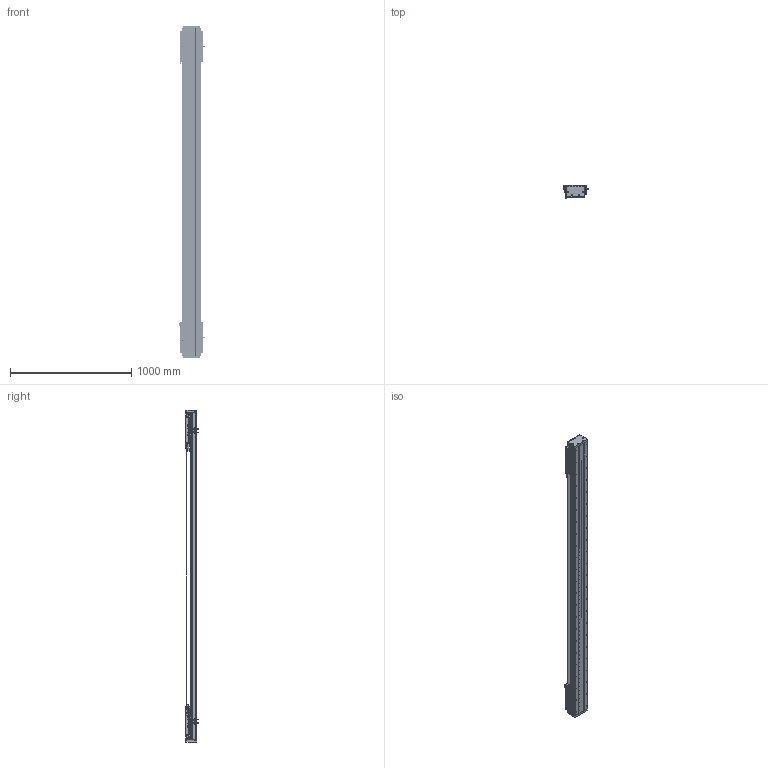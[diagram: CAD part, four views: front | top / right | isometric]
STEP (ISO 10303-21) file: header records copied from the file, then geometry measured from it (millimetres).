
FILE_DESCRIPTION (( 'STEP AP203' ), '1' );
FILE_NAME ('DA-C145-2-C3-T2120-C010-0.2 眻盄萇儂.STEP', '2025-08-13T10:25:52', ( '' ), ( '' ), 'SwSTEP 2.0', 'SolidWorks 2019', '' );
FILE_SCHEMA (( 'CONFIG_CONTROL_DESIGN' ));
Length unit declared in the file: millimetre
Products named in the file (38): 葩璃 DA145-C3-DP-A-00 菜えA^CU145-W 幗紩賑怢; 复件 DA146 钢带垫块^复件 CU145 钢带组件_DA-C145-2-C3-T-C010-0.2; TAY01-M8; 葩璃 XD-U-02L 棠掑喜^DA-C145-2-C3-T-C010-0.2; 复件 DA95-HK-GT-00 滑块钢轨^CU145-W-00 一体化滑动台板; 复件 半圆头内六角螺钉 M3×6^CU145-W 滚珠滑台; CU145-W 幗紩賑怢-1; CU145-W-00 珨极趙賑雄怢啣; 复件 DA95-DB-00  挡板^CU145-W 滚珠滑台; IU-CU145-L-00 菁釱(L2700); 复件 DA95-MFP-01 密封片^CU145-W 滚珠滑台; 葩璃 CU145 詩湍郪璃^DA-C145-2-C3-T-C010-0.2; 葩璃 DA95-GT-T-00^IU-CU145-L 菁釱絳寢; DA-C145-2-C3-T2120-C010-0.2 眻盄萇儂; DKW-GYP-ZJ-00 笢潔嫖萇覜茼え; IU-CU145-L 菁釱絳寢; 葩璃 CKMA01-W060-TRL^DA-C145-2-C3-T-C010-0.2; 葩璃 PM-Y65^DA-C145-2-C3-T-C010-0.2; 葩璃 DMA-010-0.2 黍杅芛^DA-C145-2-C3-T-C010-0.2; 葩璃 PM-T45^DA-C145-2-C3-T-C010-0.2; 复件 DA146 钢带拉块^复件 CU145 钢带组件_DA-C145-2-C3-T-C010-0.2; 复件 纯铜油杯 6x6mm^CU145-W 滚珠滑台; DKW168-HXJ-ZJ-00 笢潔滅袉砎蝶; 66245-CU145-HT-W-00 賑雄怢啣(3D芞祧)(00); 复件 内六角平端紧定螺钉 GB.T77-2000 M5×10^CU145-W 滚珠滑台; 复件 DA145-C3-YB-B-00 压板B^CU145-W 滚珠滑台; CU145-W 幗紩賑怢; 复件 DA145-DG 钢带端盖^复件 CU145 钢带组件_DA-C145-2-C3-T-C010-0.2; 葩璃 鞠褒情蹟譫 M3^DA-C145-2-C3-T-C010-0.2; 复件 DA145 钢带^复件 CU145 钢带组件_DA-C145-2-C3-T-C010-0.2; DKW-KGZ-ZJ-00 中间光电开关支架; 葩璃 CKM03-W060-C1C2-TP-0.2^DA-C145-2-C3-T-C010-0.2; 葩璃 DA145-C3-DP-B-00 菜えB^CU145-W 幗紩賑怢; 复件 DA145-C3-DK-00 挡块^CU145-W 滚珠滑台; 复件 DA145-GYP-00 光电感应片^DA-C145-2-C3-T-C010-0.2; CU145-W-00 珨极趙賑雄怢啣-1; 葩璃 DA95-HXJ-00 遣喳砎蝶^DA-C145-2-C3-T-C010-0.2; 复件 DA145-C3-YB-A-00 压板A^CU145-W 滚珠滑台
Assembly tree (180 placements, depth 4):
  DA-C145-2-C3-T2120-C010-0.2 眻盄萇儂
    IU-CU145-L 菁釱絳寢
      IU-CU145-L-00 菁釱(L2700)
      葩璃 DA95-GT-T-00^IU-CU145-L 菁釱絳寢  x4
    葩璃 CU145 詩湍郪璃^DA-C145-2-C3-T-C010-0.2
      复件 DA145-DG 钢带端盖^复件 CU145 钢带组件_DA-C145-2-C3-T-C010-0.2  x2
      复件 DA146 钢带拉块^复件 CU145 钢带组件_DA-C145-2-C3-T-C010-0.2  x2
      复件 DA146 钢带垫块^复件 CU145 钢带组件_DA-C145-2-C3-T-C010-0.2  x2
      复件 DA145 钢带^复件 CU145 钢带组件_DA-C145-2-C3-T-C010-0.2
    CU145-W 幗紩賑怢
      CU145-W-00 珨极趙賑雄怢啣
        66245-CU145-HT-W-00 賑雄怢啣(3D芞祧)(00)
        复件 DA95-HK-GT-00 滑块钢轨^CU145-W-00 一体化滑动台板  x8
      复件 DA95-MFP-01 密封片^CU145-W 滚珠滑台  x8
      复件 DA95-DB-00  挡板^CU145-W 滚珠滑台  x8
      复件 内六角平端紧定螺钉 GB.T77-2000 M5×10^CU145-W 滚珠滑台  x4
      复件 纯铜油杯 6x6mm^CU145-W 滚珠滑台  x4
      复件 半圆头内六角螺钉 M3×6^CU145-W 滚珠滑台  x16
      复件 DA145-C3-DK-00 挡块^CU145-W 滚珠滑台  x4
      葩璃 DA145-C3-DP-B-00 菜えB^CU145-W 幗紩賑怢  x2
      复件 DA145-C3-YB-B-00 压板B^CU145-W 滚珠滑台  x2
      葩璃 DA145-C3-DP-A-00 菜えA^CU145-W 幗紩賑怢  x3
      复件 DA145-C3-YB-A-00 压板A^CU145-W 滚珠滑台  x3
      TAY01-M8  x4
    CU145-W 幗紩賑怢-1
      CU145-W-00 珨极趙賑雄怢啣-1
        66245-CU145-HT-W-00 賑雄怢啣(3D芞祧)(00)
        复件 DA95-HK-GT-00 滑块钢轨^CU145-W-00 一体化滑动台板  x8
      复件 DA95-MFP-01 密封片^CU145-W 滚珠滑台  x8
      复件 DA95-DB-00  挡板^CU145-W 滚珠滑台  x8
      复件 内六角平端紧定螺钉 GB.T77-2000 M5×10^CU145-W 滚珠滑台  x4
      复件 纯铜油杯 6x6mm^CU145-W 滚珠滑台  x4
      复件 半圆头内六角螺钉 M3×6^CU145-W 滚珠滑台  x16
      复件 DA145-C3-DK-00 挡块^CU145-W 滚珠滑台  x4
      葩璃 DA145-C3-DP-B-00 菜えB^CU145-W 幗紩賑怢  x2
      复件 DA145-C3-YB-B-00 压板B^CU145-W 滚珠滑台  x2
      葩璃 DA145-C3-DP-A-00 菜えA^CU145-W 幗紩賑怢  x3
      复件 DA145-C3-YB-A-00 压板A^CU145-W 滚珠滑台  x3
      TAY01-M8  x4
    葩璃 CKMA01-W060-TRL^DA-C145-2-C3-T-C010-0.2
    葩璃 PM-T45^DA-C145-2-C3-T-C010-0.2  x4
    葩璃 XD-U-02L 棠掑喜^DA-C145-2-C3-T-C010-0.2
    葩璃 DA95-HXJ-00 遣喳砎蝶^DA-C145-2-C3-T-C010-0.2  x4
    葩璃 CKM03-W060-C1C2-TP-0.2^DA-C145-2-C3-T-C010-0.2  x2
    葩璃 DMA-010-0.2 黍杅芛^DA-C145-2-C3-T-C010-0.2  x2
    复件 DA145-GYP-00 光电感应片^DA-C145-2-C3-T-C010-0.2  x2
    DKW-GYP-ZJ-00 笢潔嫖萇覜茼え
    DKW-KGZ-ZJ-00 中间光电开关支架
    葩璃 PM-Y65^DA-C145-2-C3-T-C010-0.2
    葩璃 鞠褒情蹟譫 M3^DA-C145-2-C3-T-C010-0.2  x8
    DKW168-HXJ-ZJ-00 笢潔滅袉砎蝶
Bounding box: 213.7 x 108.45 x 2736 mm (x, y, z)
Volume: 14707503.8 mm3; surface area: 4671794 mm2
Topology: 175 solids, 239 shells, 7620 faces, 20703 edges, 12821 vertices
Faces by surface type: cylinder 3327, plane 2953, cone 1184, torus 140, sphere 8, bspline 8
Entity records: 143638 total; most frequent: CARTESIAN_POINT 41684, ORIENTED_EDGE 20092, DIRECTION 19111, EDGE_CURVE 10046, AXIS2_PLACEMENT_3D 7035, VERTEX_POINT 6520, VECTOR 5041, LINE 5041
